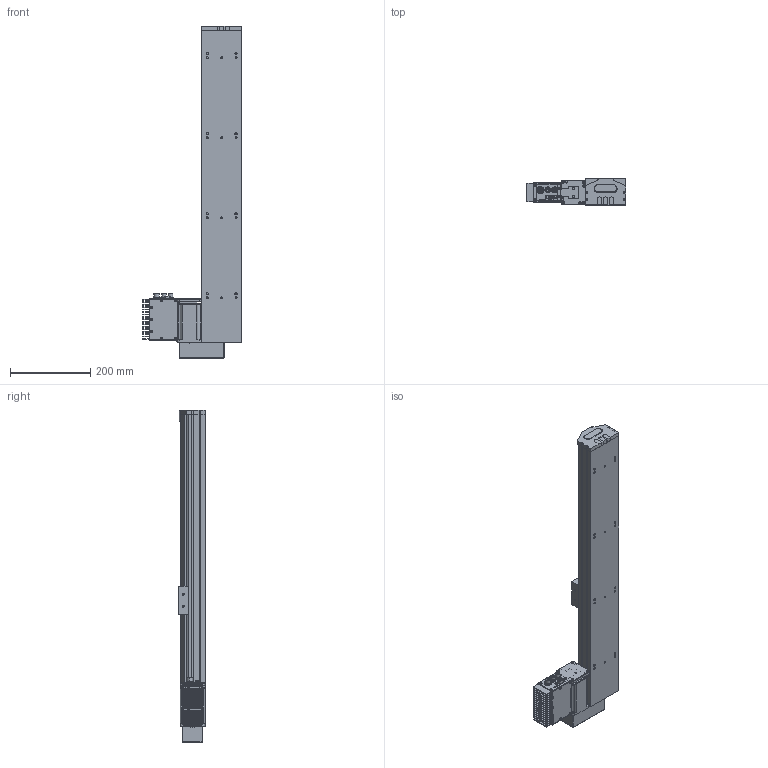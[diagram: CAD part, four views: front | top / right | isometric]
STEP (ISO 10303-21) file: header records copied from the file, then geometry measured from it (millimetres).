
FILE_DESCRIPTION (( 'STEP AP203' ), '1' );
FILE_NAME ('S10 TSN BL S600.STEP', '2012-08-31T14:29:21', ( 'Conseil Régional Haute-Normandie' ), ( 'Conseil Régional Haute-Normandie' ), 'SwSTEP 2.0', 'SolidWorks 2010', '' );
FILE_SCHEMA (( 'CONFIG_CONTROL_DESIGN' ));
Length unit declared in the file: millimetre
Products named in the file (25): Colonnette_3; S10 TSN BL  S600; BU45 Carte d''axe A11_5; Moteur 60BLDC90A_3; Sub D 9cts 90_X2_00B_X0__3; Assem1_7; T_X2_00F4_X0_le contre le moteur_5; BU41 Carte Alimentation P05_3; Couvercle_3; T_X2_00F4_X0_le fond_3; Connecteur rond D10 3cts_5; Connecteur rond D12 4cts_5; Radiateur profil_X2_00E9_X0_ 100x25_3; Colonnette ronde_3; T_X2_00F4_X0_le Arri_X2_00E8_X0_re_5; T_X2_00F4_X0_le lat_X2_00E9_X0_rale_5; Vis TF 3 torkx_1_1; axe787; palette tbn; renvoi LH_Default; piece_plastique remplie_Default; embout_modifié; remplir_Default; Pièce2_Default; Vis TF 3 torkx
Assembly tree (55 placements, depth 3):
  S10 TSN BL  S600
    Assem1_7
      BU41 Carte Alimentation P05_3
      Couvercle_3
      Connecteur rond D10 3cts_5  x2
      Vis TF 3 torkx_1_1  x21
      BU45 Carte d''axe A11_5
      T_X2_00F4_X0_le Arri_X2_00E8_X0_re_5
      T_X2_00F4_X0_le contre le moteur_5
      Colonnette_3  x2
      Connecteur rond D12 4cts_5
      Moteur 60BLDC90A_3
      T_X2_00F4_X0_le lat_X2_00E9_X0_rale_5  x2
      Radiateur profil_X2_00E9_X0_ 100x25_3
      T_X2_00F4_X0_le fond_3
      Colonnette ronde_3
      Sub D 9cts 90_X2_00B_X0__3
    axe787
    Vis TF 3 torkx  x7
    piece_plastique remplie_Default
      embout_modifié
      remplir_Default  x3
      Pièce2_Default
    palette tbn
    renvoi LH_Default
Bounding box: 248 x 66.75 x 829.5 mm (x, y, z)
Volume: 4768884.1 mm3; surface area: 644198.1 mm2
Topology: 53 solids, 53 shells, 1962 faces, 4992 edges, 3254 vertices
Faces by surface type: plane 926, cylinder 873, cone 156, bspline 4, torus 3
Entity records: 38527 total; most frequent: CARTESIAN_POINT 6508, DIRECTION 6263, ORIENTED_EDGE 5692, EDGE_CURVE 2846, AXIS2_PLACEMENT_3D 2298, VERTEX_POINT 1866, VECTOR 1667, LINE 1667
